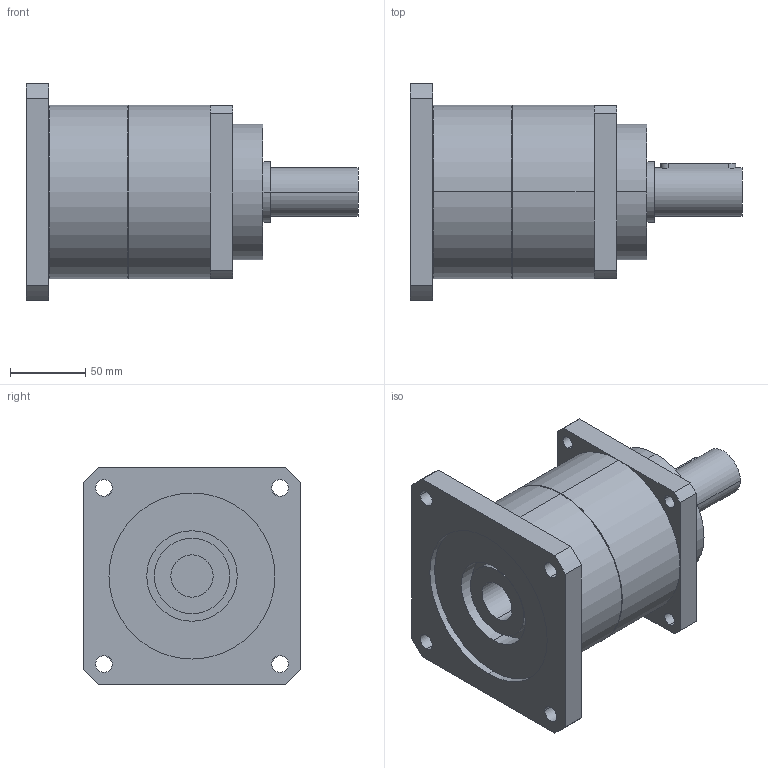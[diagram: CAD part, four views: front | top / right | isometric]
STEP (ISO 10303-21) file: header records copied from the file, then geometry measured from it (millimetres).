
FILE_DESCRIPTION(('CoCreate Modeling STEP Export'),'2;1');
FILE_NAME('GPT120_ig-3-4-5-7-10_32_B5A_28_P22.stp','2015-02-04T17:00:57',(''),(''),'CoCreate Modeling STEP processor for AP214 (Solid Model)','CoCreate Modeling 16.00C 25-Feb-2009 (C) Parametric Technology GmbH','');
FILE_SCHEMA(('AUTOMOTIVE_DESIGN { 1 0 10303 214 1 1 1 1 }'));
Length unit declared in the file: millimetre
Products named in the file (2): GPT120_ig-3-4-5-7-10_32_B5A_28_P22
Assembly tree (1 placements, depth 2):
  GPT120_ig-3-4-5-7-10_32_B5A_28_P22
    GPT120_ig-3-4-5-7-10_32_B5A_28_P22
Bounding box: 220 x 144 x 144 mm (x, y, z)
Volume: 1693265.6 mm3; surface area: 126288.6 mm2
Topology: 1 solids, 1 shells, 77 faces, 202 edges, 137 vertices
Faces by surface type: cylinder 46, plane 27, cone 4
Entity records: 2558 total; most frequent: CARTESIAN_POINT 757, ORIENTED_EDGE 404, DIRECTION 320, EDGE_CURVE 202, VERTEX_POINT 137, AXIS2_PLACEMENT_3D 118, EDGE_LOOP 103, VECTOR 84
